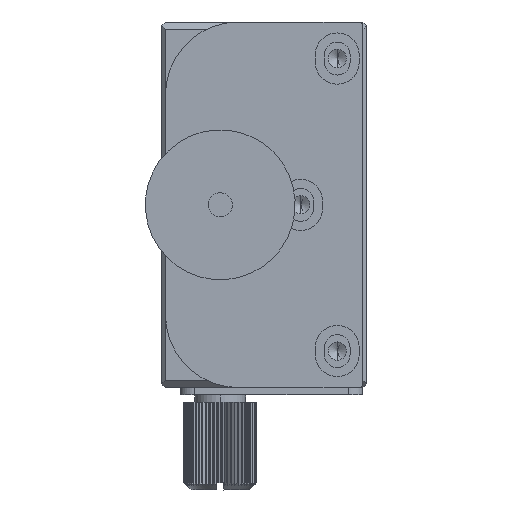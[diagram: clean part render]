
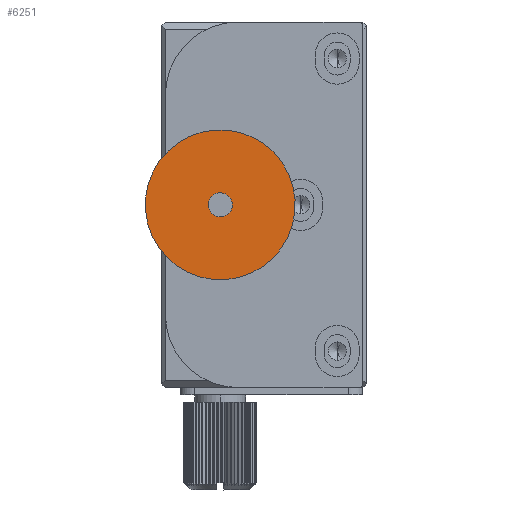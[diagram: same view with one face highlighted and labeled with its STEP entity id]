
A CAD part, left-side view. The second image highlights one B-rep face of the part: STEP entity #6251.
In plain terms, the highlighted planar face has unit normal (-1, 0, 0).
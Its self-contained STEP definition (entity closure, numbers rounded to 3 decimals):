
#3085 = ORIENTED_EDGE ( 'NONE', *, *, #11372, .T. ) ;
#4111 = CARTESIAN_POINT ( 'NONE',  ( -95.265, -16.541, 117.739 ) ) ;
#5809 = CARTESIAN_POINT ( 'NONE',  ( -95.265, -8.048, 112. ) ) ;
#6251 = ADVANCED_FACE ( 'NONE', ( #15209, #7430 ), #7666, .T. ) ;
#6294 = CARTESIAN_POINT ( 'NONE',  ( -95.265, 0.445, 106.261 ) ) ;
#7430 = FACE_OUTER_BOUND ( 'NONE', #34983, .T. ) ;
#7666 = PLANE ( 'NONE',  #33155 ) ;
#8281 = AXIS2_PLACEMENT_3D ( 'NONE', #31133, #23822, #15815 ) ;
#9146 = DIRECTION ( 'NONE',  ( 0., -0.56, -0.829 ) ) ;
#9154 = CARTESIAN_POINT ( 'NONE',  ( -95.265, -8.048, 112. ) ) ;
#11191 = VERTEX_POINT ( 'NONE', #31406 ) ;
#11372 = EDGE_CURVE ( 'NONE', #20160, #17169, #41338, .T. ) ;
#12558 = EDGE_LOOP ( 'NONE', ( #26632, #30437 ) ) ;
#15209 = FACE_BOUND ( 'NONE', #12558, .T. ) ;
#15815 = DIRECTION ( 'NONE',  ( 0., -0.829, 0.56 ) ) ;
#17169 = VERTEX_POINT ( 'NONE', #28595 ) ;
#17234 = EDGE_CURVE ( 'NONE', #42561, #11191, #23340, .T. ) ;
#19062 = DIRECTION ( 'NONE',  ( 0., -0.56, -0.829 ) ) ;
#20160 = VERTEX_POINT ( 'NONE', #6294 ) ;
#20215 = DIRECTION ( 'NONE',  ( -1., 0., 0. ) ) ;
#22068 = DIRECTION ( 'NONE',  ( 0., -0.829, 0.56 ) ) ;
#22607 = CIRCLE ( 'NONE', #8281, 10.25 ) ;
#23340 = CIRCLE ( 'NONE', #39901, 1.65 ) ;
#23822 = DIRECTION ( 'NONE',  ( -1., 0., 0. ) ) ;
#24114 = AXIS2_PLACEMENT_3D ( 'NONE', #5809, #20215, #9146 ) ;
#24349 = CARTESIAN_POINT ( 'NONE',  ( -95.265, -8.048, 112. ) ) ;
#26632 = ORIENTED_EDGE ( 'NONE', *, *, #17234, .F. ) ;
#26874 = DIRECTION ( 'NONE',  ( -1., 0., 0. ) ) ;
#28595 = CARTESIAN_POINT ( 'NONE',  ( -95.265, -16.541, 117.739 ) ) ;
#29240 = ORIENTED_EDGE ( 'NONE', *, *, #37464, .T. ) ;
#30437 = ORIENTED_EDGE ( 'NONE', *, *, #37862, .F. ) ;
#30747 = AXIS2_PLACEMENT_3D ( 'NONE', #24349, #39448, #38745 ) ;
#31133 = CARTESIAN_POINT ( 'NONE',  ( -95.265, -8.048, 112. ) ) ;
#31406 = CARTESIAN_POINT ( 'NONE',  ( -95.265, -7.124, 113.367 ) ) ;
#32845 = CARTESIAN_POINT ( 'NONE',  ( -95.265, -8.972, 110.633 ) ) ;
#33155 = AXIS2_PLACEMENT_3D ( 'NONE', #4111, #40024, #22068 ) ;
#34983 = EDGE_LOOP ( 'NONE', ( #29240, #3085 ) ) ;
#37464 = EDGE_CURVE ( 'NONE', #17169, #20160, #22607, .T. ) ;
#37862 = EDGE_CURVE ( 'NONE', #11191, #42561, #39183, .T. ) ;
#38745 = DIRECTION ( 'NONE',  ( 0., -0.829, 0.56 ) ) ;
#39183 = CIRCLE ( 'NONE', #24114, 1.65 ) ;
#39448 = DIRECTION ( 'NONE',  ( -1., 0., 0. ) ) ;
#39901 = AXIS2_PLACEMENT_3D ( 'NONE', #9154, #26874, #19062 ) ;
#40024 = DIRECTION ( 'NONE',  ( -1., 0., 0. ) ) ;
#41338 = CIRCLE ( 'NONE', #30747, 10.25 ) ;
#42561 = VERTEX_POINT ( 'NONE', #32845 ) ;
